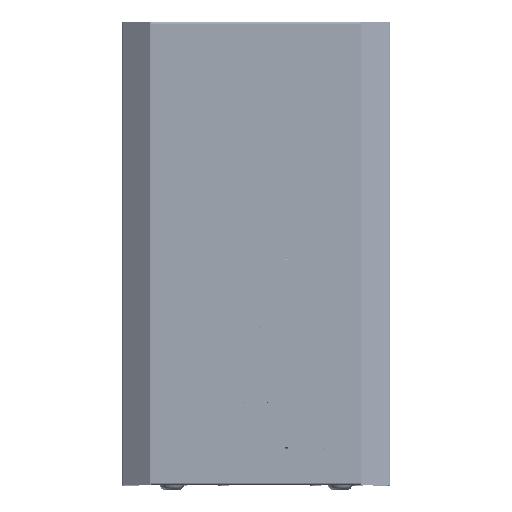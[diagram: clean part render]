
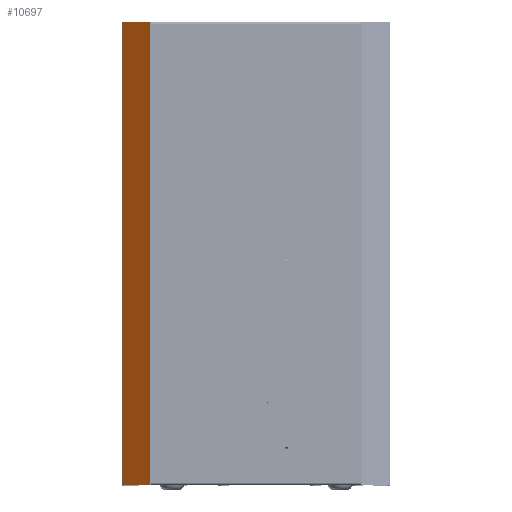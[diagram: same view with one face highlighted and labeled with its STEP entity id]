
A CAD part, top view. The second image highlights one B-rep face of the part: STEP entity #10697.
In plain terms, the highlighted planar face has unit normal (-0.602, 0, 0.799).
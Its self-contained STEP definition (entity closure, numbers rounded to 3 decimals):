
#10697 = ADVANCED_FACE ( 'NONE', ( #333193 ), #372517, .T. ) ;
#11249 = LINE ( 'NONE', #493085, #517964 ) ;
#13747 = CARTESIAN_POINT ( 'NONE',  ( 20., 333., -0.241 ) ) ;
#14410 = EDGE_CURVE ( 'NONE', #34314, #359309, #94410, .T. ) ;
#34314 = VERTEX_POINT ( 'NONE', #190657 ) ;
#35323 = EDGE_CURVE ( 'NONE', #34314, #460354, #498002, .T. ) ;
#36980 = DIRECTION ( 'NONE',  ( -0.799, 0., -0.602 ) ) ;
#77263 = ORIENTED_EDGE ( 'NONE', *, *, #35323, .T. ) ;
#94410 = LINE ( 'NONE', #387553, #241302 ) ;
#120537 = CARTESIAN_POINT ( 'NONE',  ( 0.597, 333., -14.862 ) ) ;
#190050 = ORIENTED_EDGE ( 'NONE', *, *, #14410, .F. ) ;
#190657 = CARTESIAN_POINT ( 'NONE',  ( 0.597, 3., -14.862 ) ) ;
#197465 = EDGE_CURVE ( 'NONE', #460354, #232855, #11249, .T. ) ;
#232855 = VERTEX_POINT ( 'NONE', #312345 ) ;
#241302 = VECTOR ( 'NONE', #337871, 1000. ) ;
#249318 = CARTESIAN_POINT ( 'NONE',  ( 0.597, 3., -14.862 ) ) ;
#251383 = CARTESIAN_POINT ( 'NONE',  ( 19.599, 3., -0.543 ) ) ;
#255322 = AXIS2_PLACEMENT_3D ( 'NONE', #13747, #443466, #490429 ) ;
#267562 = LINE ( 'NONE', #272729, #325267 ) ;
#272729 = CARTESIAN_POINT ( 'NONE',  ( 19.599, 333., -0.543 ) ) ;
#293753 = DIRECTION ( 'NONE',  ( 0.799, 0., 0.602 ) ) ;
#297474 = ORIENTED_EDGE ( 'NONE', *, *, #506799, .T. ) ;
#312345 = CARTESIAN_POINT ( 'NONE',  ( 19.599, 333., -0.543 ) ) ;
#318624 = ORIENTED_EDGE ( 'NONE', *, *, #197465, .T. ) ;
#325267 = VECTOR ( 'NONE', #36980, 1000. ) ;
#333193 = FACE_OUTER_BOUND ( 'NONE', #380047, .T. ) ;
#337871 = DIRECTION ( 'NONE',  ( 0., 1., 0. ) ) ;
#359309 = VERTEX_POINT ( 'NONE', #120537 ) ;
#372517 = PLANE ( 'NONE',  #255322 ) ;
#380047 = EDGE_LOOP ( 'NONE', ( #190050, #77263, #318624, #297474 ) ) ;
#387553 = CARTESIAN_POINT ( 'NONE',  ( 0.597, 3., -14.862 ) ) ;
#443466 = DIRECTION ( 'NONE',  ( -0.602, 0., 0.799 ) ) ;
#453800 = DIRECTION ( 'NONE',  ( 0., 1., 0. ) ) ;
#460354 = VERTEX_POINT ( 'NONE', #251383 ) ;
#490429 = DIRECTION ( 'NONE',  ( 0., 1., 0. ) ) ;
#493085 = CARTESIAN_POINT ( 'NONE',  ( 19.599, 3., -0.543 ) ) ;
#498002 = LINE ( 'NONE', #249318, #501212 ) ;
#501212 = VECTOR ( 'NONE', #293753, 1000. ) ;
#506799 = EDGE_CURVE ( 'NONE', #232855, #359309, #267562, .T. ) ;
#517964 = VECTOR ( 'NONE', #453800, 1000. ) ;
